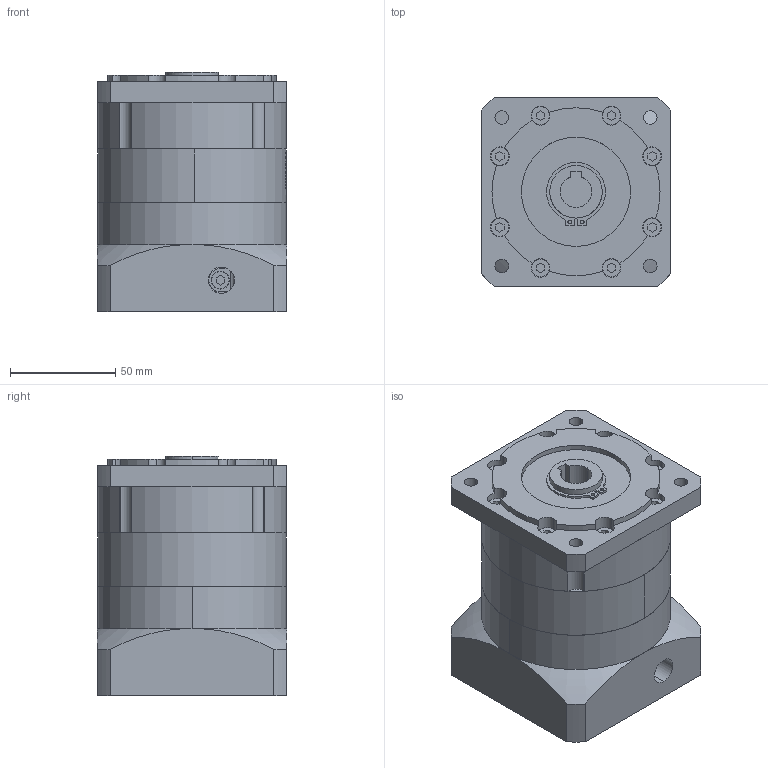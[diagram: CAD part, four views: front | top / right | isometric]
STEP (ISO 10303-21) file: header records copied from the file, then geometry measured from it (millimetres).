
FILE_DESCRIPTION (( 'STEP AP203' ), '1' );
FILE_NAME ('PBF090-L1-14-73-98.4.STEP', '2022-07-21T09:03:38', ( 'Windows User' ), ( 'P R C' ), 'SwSTEP 2.0', 'SolidWorks 2016', '' );
FILE_SCHEMA (( 'CONFIG_CONTROL_DESIGN' ));
Length unit declared in the file: millimetre
Products named in the file (7): 囀鞠褒蹟佪 M5℅20; 粣創-6007 35x62x14; PBF090-L1-14-73-98.4; PBF090 蟀諉啣-073-98.4-M5_D8-70 D9-90 D10-M5 A2-90 L4-32 L6-47(32+15) L7-6 R-59.5梓袧; PBF090 κｳﾝﾈｦ-ﾓﾅｻｯ_ﾒｻｼｶﾄﾚｳﾝﾈｦ; PBF090 上蓋版-孔15输出-B5_标准; PBF090 狟屳唳-14_D6-90 D7-19 梓袧
Assembly tree (6 placements, depth 2):
  PBF090-L1-14-73-98.4
    PBF090 蟀諉啣-073-98.4-M5_D8-70 D9-90 D10-M5 A2-90 L4-32 L6-47(32+15) L7-6 R-59.5梓袧
    PBF090 κｳﾝﾈｦ-ﾓﾅｻｯ_ﾒｻｼｶﾄﾚｳﾝﾈｦ
    PBF090 上蓋版-孔15输出-B5_标准
    PBF090 狟屳唳-14_D6-90 D7-19 梓袧
    囀鞠褒蹟佪 M5℅20
    粣創-6007 35x62x14
Bounding box: 90 x 90 x 114 mm (x, y, z)
Volume: 671612.6 mm3; surface area: 139662.5 mm2
Topology: 6 solids, 6 shells, 1099 faces, 2994 edges, 1984 vertices
Faces by surface type: plane 581, cylinder 206, bspline 162, sphere 88, torus 52, cone 10
Entity records: 45217 total; most frequent: CARTESIAN_POINT 17681, ORIENTED_EDGE 5972, DIRECTION 4974, EDGE_CURVE 2986, VERTEX_POINT 1984, AXIS2_PLACEMENT_3D 1740, VECTOR 1494, LINE 1494
